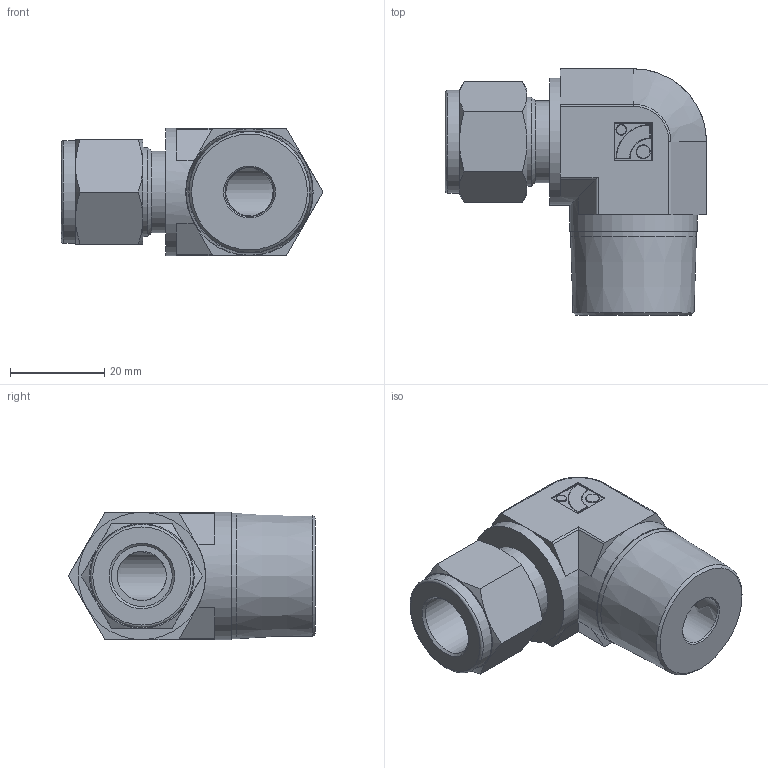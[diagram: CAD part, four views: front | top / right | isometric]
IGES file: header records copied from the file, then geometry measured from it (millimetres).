
Global section: file name: No Iges File Name specified; native system: Autodesk Inventor 2012; preprocessor: AutoDesk Inventor Iges Exporter R2012; author: 硅己绕,, ; organization: 11; date: 20150703.114255; units: millimetre
Bounding box: 55.41 x 52.31 x 27 mm (x, y, z)
Volume: 32425.1 mm3; surface area: 10244.7 mm2
Topology: 1 solids, 1 shells, 133 faces, 300 edges, 175 vertices
Faces by surface type: plane 43, cylinder 29, revolution 28, cone 17, torus 12, sphere 4
Full cylindrical faces by diameter (mm): 2.16 x1, 2.88 x1, 17.3 x1, 18.9 x1, 21.8 x1, 26.67 x1, 27 x2
